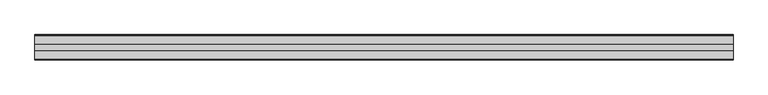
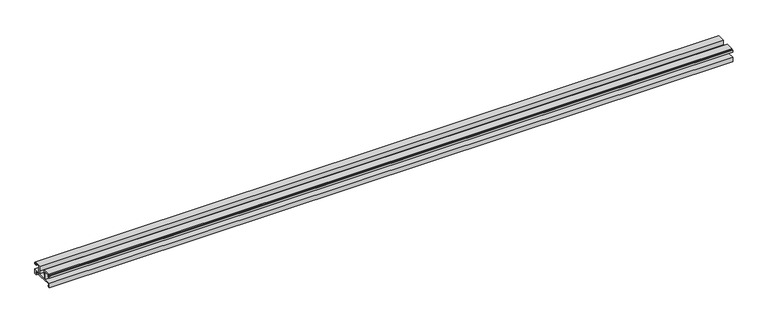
"""IFC4 building model written with IfcOpenShell, lengths in millimetres: proxy geometry, Weiku - Montante - Acoplamento vidro : Weiku - Montante - Acoplamento vidro."""

from ifc_helpers import new_model, si_unit, frame, origin, place, context, project, spatial, polyline, outline, extrude, source, transform, mapped, element, save


def generic_models_5737eec8(model_context):
    return source(origin(), model_context, "Body", "SweptSolid", [
        extrude(outline(polyline([(-35.405, 5.1494), (-35.405, 6.8004), (-45.741, 6.8004), (-45.741, 2.6094), (-43.8784, 2.6094), (-43.8784, 0.0), (-47.9014508, 0.0), (-47.9014508, 8.79), (-34.946, 8.79), (-34.946, 23.3104), (-43.5397, 23.3104), (-43.5397, 19.204), (-47.9, 19.204), (-47.9, 22.8024), (-46.9264, 22.8024), (-46.9264, 20.3894), (-44.725, 20.3894), (-44.725, 23.9454), (-45.5264504, 23.9454), (-45.5264504, 25.3), (-30.4164, 25.3), (-30.4164, 16.283), (-32.4484, 16.283), (-32.4484, 8.8), (-15.4516, 8.8), (-15.4516, 16.283), (-17.4836, 16.283), (-17.4836, 25.3), (-2.3735496, 25.3), (-2.3735496, 23.9454), (-3.175, 23.9454), (-3.175, 20.3894), (-0.9736, 20.3894), (-0.9736, 22.8024), (0.0, 22.8024), (0.0, 19.204), (-4.3603, 19.204), (-4.3603, 23.3104), (-12.954, 23.3104), (-12.954, 8.79), (0.0014508, 8.79), (0.0014508, 0.0), (-4.0216, 0.0), (-4.0216, 2.6094), (-2.159, 2.6094), (-2.159, 6.8004), (-12.495, 6.8004), (-12.495, 5.1494), (-35.405, 5.1494)])), frame((-654.4333333, 0.0, 0.0), z_axis=(1.0, 0.0, 0.0), x_axis=(0.0, 1.0, 0.0)), (0.0, 0.0, 1.0), 1308.8666667),
    ])


if __name__ == "__main__":
    model = new_model("IFC4")
    model_context = context("Model", 3, world=origin())
    ifc_project = project(units=[si_unit("LENGTHUNIT", "METRE", prefix="MILLI")], contexts=[model_context])
    site = spatial("IfcSite", under=ifc_project)
    building = spatial("IfcBuilding", under=site)
    placement = place(None, origin())
    generic_models_shape = generic_models_5737eec8(model_context)
    element("IfcBuildingElementProxy", 1, Name="Weiku - Montante - Acoplamento vidro : Weiku - Montante - Acoplamento vidro", ObjectType="Weiku - Montante - Acoplamento vidro : Weiku - Montante - Acoplamento vidro", at=placement, inside=building, context=model_context, shape_type="MappedRepresentation", body=[
        mapped(generic_models_shape, transform((0.0, 0.0, 0.0), x_axis=(1.0, 0.0, 0.0), y_axis=(0.0, 1.0, 0.0), z_axis=(0.0, 0.0, 1.0))),
    ])
    save(model, "model.ifc")
